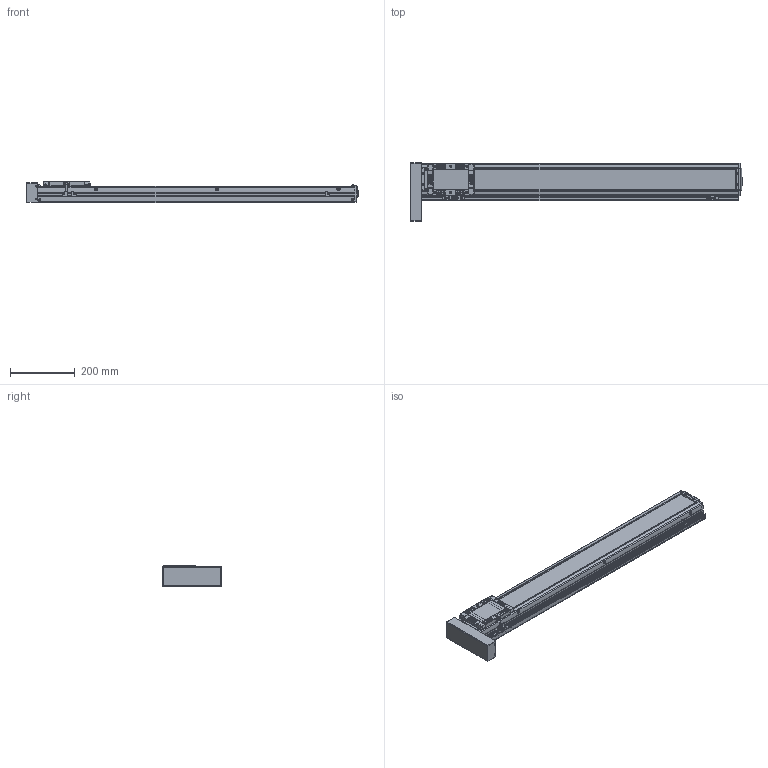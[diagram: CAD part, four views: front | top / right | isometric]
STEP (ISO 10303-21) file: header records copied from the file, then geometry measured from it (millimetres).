
FILE_DESCRIPTION(('STEP AP214'),'1');
FILE_NAME('Z:/Web/3D/SAN100/SAN100 양산용 (STEP)/SAN100ㅁㅁ-800PR+3SR.stp','2013-04-30T02:01:45',(' '),(' '),'Spatial InterOp 3D',' ',' ');
FILE_SCHEMA(('automotive_design'));
Length unit declared in the file: millimetre
Products named in the file (51): BTCV-SAN65; BHCS M3 X 6L; SUS COVER; SFX-SAN100; RRCV-SAN100; 스크루 : Round - M4.0 x 10.0; M3.0 x 6.0; 스크루 : Round - M3.0 x 6.0; FRBL-SAN100; SLBL-SAN100; SLCV-SAN100; 스크루 : Countersunk - M3.0 x 6.0; BASE; 스크루 : Round - M5.0 x 6.0; EE-SX674; SBK-SX674-352; SRL-16x17-380L; SGD-SAN100
Bounding box: 1026.5 x 184.13 x 66 mm (x, y, z)
Volume: 3111845.6 mm3; surface area: 801508.6 mm2
Topology: 51 solids, 52 shells, 2487 faces, 6486 edges, 4193 vertices
Faces by surface type: plane 1312, cylinder 863, cone 210, sphere 68, torus 18, bspline 16
Entity records: 98196 total; most frequent: CARTESIAN_POINT 14759, DIRECTION 13649, ORIENTED_EDGE 12768, EDGE_CURVE 6384, AXIS2_PLACEMENT_3D 4856, VERTEX_POINT 4193, LINE 3937, VECTOR 3937
